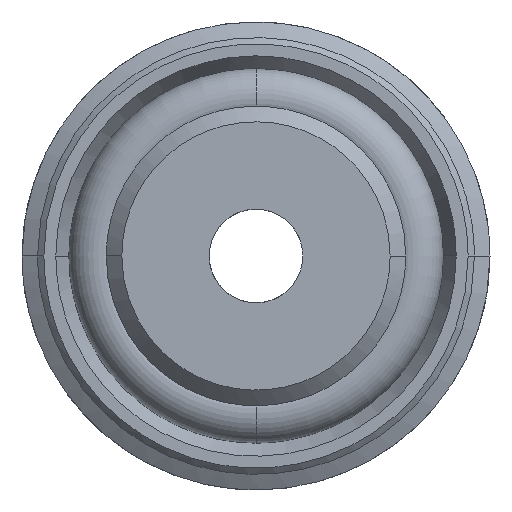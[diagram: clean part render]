
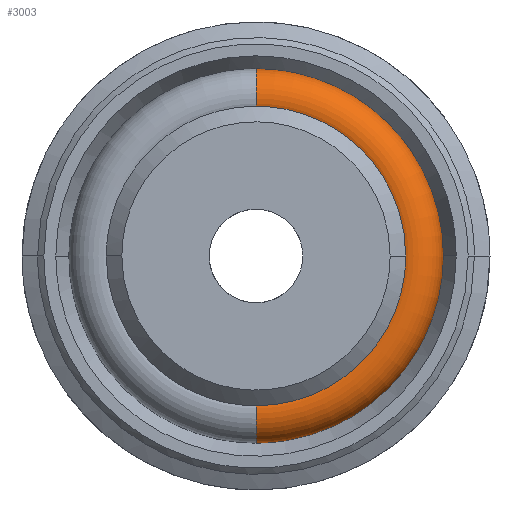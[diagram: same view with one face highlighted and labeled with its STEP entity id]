
A CAD part, front view. The second image highlights one B-rep face of the part: STEP entity #3003.
In plain terms, the highlighted toroidal (fillet/blend) face has major radius 5.05 mm and minor radius 0.95 mm.
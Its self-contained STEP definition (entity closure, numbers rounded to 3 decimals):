
#24 = ORIENTED_EDGE ( 'NONE', *, *, #939, .T. ) ;
#99 = CARTESIAN_POINT ( 'NONE',  ( 0., 5.45, -4.1 ) ) ;
#128 = CARTESIAN_POINT ( 'NONE',  ( 3.993, 5.45, 1.073 ) ) ;
#156 = CARTESIAN_POINT ( 'NONE',  ( 4.413, 6.4, 2.543 ) ) ;
#175 = CARTESIAN_POINT ( 'NONE',  ( 4.413, 6.4, -2.543 ) ) ;
#190 = CARTESIAN_POINT ( 'NONE',  ( 4.919, 6.4, 1.322 ) ) ;
#209 = CARTESIAN_POINT ( 'NONE',  ( 0., 6.4, 5.05 ) ) ;
#213 = ORIENTED_EDGE ( 'NONE', *, *, #1775, .T. ) ;
#282 = DIRECTION ( 'NONE',  ( -1., 0., 0. ) ) ;
#307 = CARTESIAN_POINT ( 'NONE',  ( 3.583, 5.45, -2.065 ) ) ;
#337 = CARTESIAN_POINT ( 'NONE',  ( 1.073, 5.45, -3.993 ) ) ;
#354 = CARTESIAN_POINT ( 'NONE',  ( 3.993, 5.45, -1.073 ) ) ;
#368 = CARTESIAN_POINT ( 'NONE',  ( 2.52, 5.45, -3.279 ) ) ;
#584 = ORIENTED_EDGE ( 'NONE', *, *, #2025, .T. ) ;
#656 = CARTESIAN_POINT ( 'NONE',  ( 2.543, 6.4, 4.413 ) ) ;
#712 = B_SPLINE_CURVE_WITH_KNOTS ( 'NONE', 3,
 ( #1935, #965, #1953, #1425, #1443, #2148, #175, #1177, #2131, #2402, #190, #156, #2422, #3125, #656, #1646, #1160, #209 ),
 .UNSPECIFIED., .F., .F.,
 ( 4, 2, 2, 2, 2, 2, 2, 2, 4 ),
 ( 0., 0.063, 0.125, 0.188, 0.25, 0.313, 0.375, 0.438, 0.5 ),
 .UNSPECIFIED. ) ;
#739 = EDGE_CURVE ( 'NONE', #2679, #1481, #3065, .T. ) ;
#773 = CARTESIAN_POINT ( 'NONE',  ( 0., 5.45, 5.05 ) ) ;
#911 = CARTESIAN_POINT ( 'NONE',  ( 0., 5.45, -4.1 ) ) ;
#935 = CIRCLE ( 'NONE', #1359, 0.95 ) ;
#939 = EDGE_CURVE ( 'NONE', #1218, #1237, #935, .T. ) ;
#965 = CARTESIAN_POINT ( 'NONE',  ( 0.661, 6.4, -5.05 ) ) ;
#1067 = CARTESIAN_POINT ( 'NONE',  ( 0.537, 5.45, 4.1 ) ) ;
#1079 = FACE_OUTER_BOUND ( 'NONE', #3186, .T. ) ;
#1107 = CARTESIAN_POINT ( 'NONE',  ( 0., 5.45, 0. ) ) ;
#1160 = CARTESIAN_POINT ( 'NONE',  ( 0.661, 6.4, 5.05 ) ) ;
#1174 = CARTESIAN_POINT ( 'NONE',  ( 0., 6.4, -5.05 ) ) ;
#1177 = CARTESIAN_POINT ( 'NONE',  ( 4.919, 6.4, -1.322 ) ) ;
#1196 = CARTESIAN_POINT ( 'NONE',  ( 0., 5.45, -5.05 ) ) ;
#1218 = VERTEX_POINT ( 'NONE', #911 ) ;
#1237 = VERTEX_POINT ( 'NONE', #1174 ) ;
#1299 = CARTESIAN_POINT ( 'NONE',  ( 2.065, 5.45, -3.583 ) ) ;
#1359 = AXIS2_PLACEMENT_3D ( 'NONE', #1196, #1494, #1954 ) ;
#1425 = CARTESIAN_POINT ( 'NONE',  ( 2.543, 6.4, -4.413 ) ) ;
#1443 = CARTESIAN_POINT ( 'NONE',  ( 3.103, 6.4, -4.038 ) ) ;
#1481 = VERTEX_POINT ( 'NONE', #2003 ) ;
#1494 = DIRECTION ( 'NONE',  ( 1., 0., 0. ) ) ;
#1544 = CARTESIAN_POINT ( 'NONE',  ( 3.583, 5.45, 2.065 ) ) ;
#1592 = CARTESIAN_POINT ( 'NONE',  ( 2.065, 5.45, 3.583 ) ) ;
#1646 = CARTESIAN_POINT ( 'NONE',  ( 1.322, 6.4, 4.919 ) ) ;
#1775 = EDGE_CURVE ( 'NONE', #1237, #1481, #712, .T. ) ;
#1811 = CARTESIAN_POINT ( 'NONE',  ( 4.1, 5.45, 0.537 ) ) ;
#1828 = CARTESIAN_POINT ( 'NONE',  ( 2.52, 5.45, 3.279 ) ) ;
#1935 = CARTESIAN_POINT ( 'NONE',  ( 0., 6.4, -5.05 ) ) ;
#1953 = CARTESIAN_POINT ( 'NONE',  ( 1.322, 6.4, -4.919 ) ) ;
#1954 = DIRECTION ( 'NONE',  ( 0., 0., -1. ) ) ;
#2003 = CARTESIAN_POINT ( 'NONE',  ( 0., 6.4, 5.05 ) ) ;
#2025 = EDGE_CURVE ( 'NONE', #2679, #1218, #2766, .T. ) ;
#2039 = CARTESIAN_POINT ( 'NONE',  ( 0.537, 5.45, -4.1 ) ) ;
#2078 = AXIS2_PLACEMENT_3D ( 'NONE', #773, #282, #3020 ) ;
#2101 = CARTESIAN_POINT ( 'NONE',  ( 1.073, 5.45, 3.993 ) ) ;
#2131 = CARTESIAN_POINT ( 'NONE',  ( 5.05, 6.4, -0.661 ) ) ;
#2148 = CARTESIAN_POINT ( 'NONE',  ( 4.038, 6.4, -3.103 ) ) ;
#2184 = ORIENTED_EDGE ( 'NONE', *, *, #739, .F. ) ;
#2402 = CARTESIAN_POINT ( 'NONE',  ( 5.05, 6.4, 0.661 ) ) ;
#2422 = CARTESIAN_POINT ( 'NONE',  ( 4.038, 6.4, 3.103 ) ) ;
#2591 = CARTESIAN_POINT ( 'NONE',  ( 4.1, 5.45, -0.537 ) ) ;
#2672 = AXIS2_PLACEMENT_3D ( 'NONE', #1107, #2819, #2836 ) ;
#2679 = VERTEX_POINT ( 'NONE', #2757 ) ;
#2757 = CARTESIAN_POINT ( 'NONE',  ( 0., 5.45, 4.1 ) ) ;
#2766 = B_SPLINE_CURVE_WITH_KNOTS ( 'NONE', 3,
 ( #2823, #1067, #2101, #1592, #1828, #3045, #1544, #128, #1811, #2591, #354, #307, #3028, #368, #1299, #337, #2039, #99 ),
 .UNSPECIFIED., .F., .F.,
 ( 4, 2, 2, 2, 2, 2, 2, 2, 4 ),
 ( 0.75, 0.813, 0.875, 0.938, 1., 1.063, 1.125, 1.188, 1.25 ),
 .UNSPECIFIED. ) ;
#2819 = DIRECTION ( 'NONE',  ( 0., 1., 0. ) ) ;
#2823 = CARTESIAN_POINT ( 'NONE',  ( 0., 5.45, 4.1 ) ) ;
#2836 = DIRECTION ( 'NONE',  ( 0., 0., 1. ) ) ;
#3003 = ADVANCED_FACE ( 'NONE', ( #1079 ), #3033, .T. ) ;
#3020 = DIRECTION ( 'NONE',  ( 0., 0., 1. ) ) ;
#3028 = CARTESIAN_POINT ( 'NONE',  ( 3.279, 5.45, -2.52 ) ) ;
#3033 = TOROIDAL_SURFACE ( 'NONE', #2672, 5.05, 0.95 ) ;
#3045 = CARTESIAN_POINT ( 'NONE',  ( 3.279, 5.45, 2.52 ) ) ;
#3065 = CIRCLE ( 'NONE', #2078, 0.95 ) ;
#3125 = CARTESIAN_POINT ( 'NONE',  ( 3.103, 6.4, 4.038 ) ) ;
#3186 = EDGE_LOOP ( 'NONE', ( #584, #24, #213, #2184 ) ) ;
